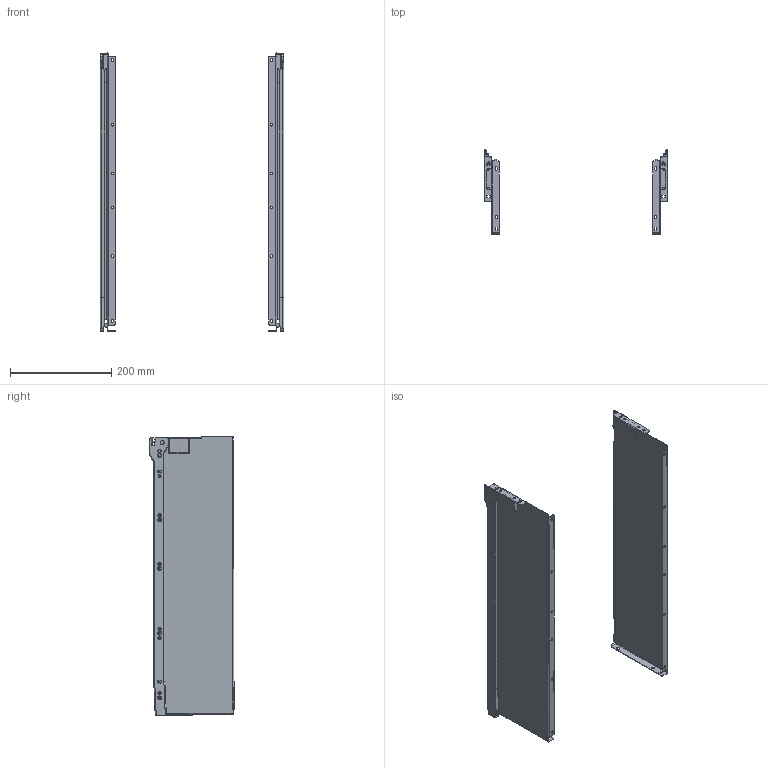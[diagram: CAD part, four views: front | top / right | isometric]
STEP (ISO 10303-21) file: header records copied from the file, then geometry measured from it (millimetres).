
FILE_DESCRIPTION(/* description */ (''),/* implementation_level */ '2;1');
FILE_NAME(/* name */ 'D:\$Workingspace\Designs\Katalog\Cadsoft\GTV Prwadnice II\MP (2)\MP\Metal box 3D\MP-150550-10.stp',/* time_stamp */ '2017-02-09T10:17:05+01:00',/* author */ ('tomaszw'),/* organization */ (''),/* preprocessor_version */ 'ST-DEVELOPER v16.1',/* originating_system */ 'Autodesk Inventor 2016',/* authorisation */ '');
FILE_SCHEMA (('CONFIG_CONTROL_DESIGN'));
Length unit declared in the file: millimetre
Products named in the file (5): MP-550-10_CL; MP-550-10_CR; MP-150550-10_DL; MP-150550-10_DR; MP
Assembly tree (4 placements, depth 2):
  MP
    MP-550-10_CL
    MP-550-10_CR
    MP-150550-10_DL
    MP-150550-10_DR
Bounding box: 364 x 166.43 x 552.44 mm (x, y, z)
Volume: 317858.7 mm3; surface area: 496851.1 mm2
Topology: 8 solids, 8 shells, 500 faces, 1294 edges, 822 vertices
Faces by surface type: plane 226, cylinder 208, cone 34, torus 20, sphere 12
Full cylindrical faces by diameter (mm): 4 x4, 4.8 x2, 5 x12, 5.5 x14, 6.5 x10, 7 x4, 8 x4, 18.5 x4
Entity records: 15765 total; most frequent: CARTESIAN_POINT 2751, DIRECTION 2656, ORIENTED_EDGE 2396, EDGE_CURVE 1198, AXIS2_PLACEMENT_3D 967, VERTEX_POINT 814, LINE 722, VECTOR 722
